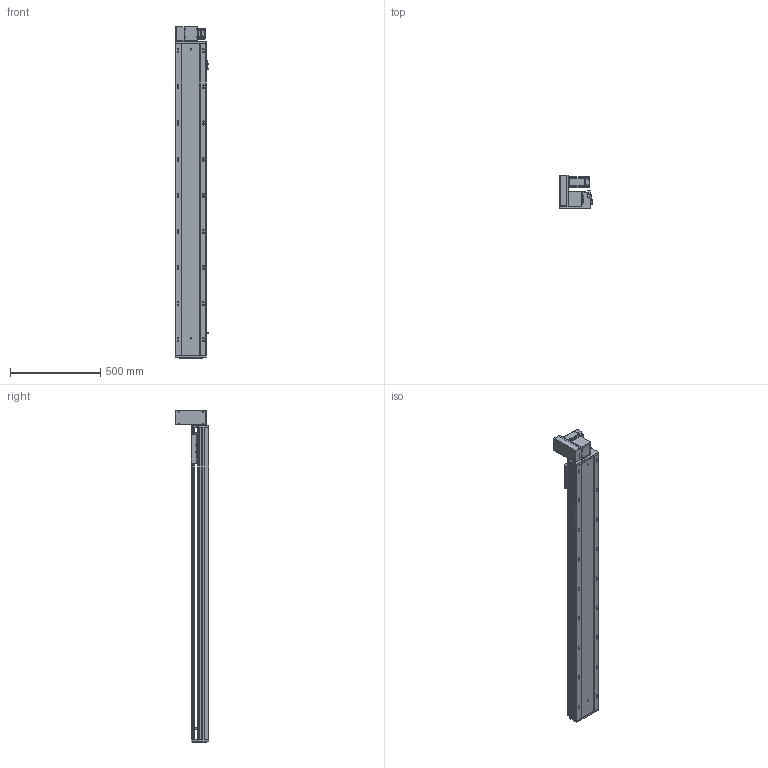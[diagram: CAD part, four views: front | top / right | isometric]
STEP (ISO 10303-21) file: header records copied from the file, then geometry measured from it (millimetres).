
FILE_DESCRIPTION (( 'STEP AP203' ), '1' );
FILE_NAME ('RY170-T-300-UL-P400W.SLDASM_1450.step', '2021-03-02T02:13:30', ( '盈信电脑' ), ( '东莞市道滘镇水果街19号' ), 'SwSTEP 2.0', 'SolidWorks 2012', '' );
FILE_SCHEMA (( 'CONFIG_CONTROL_DESIGN' ));
Products named in the file (18): RY170-T-300-UL-P400W.SLDASM_1450; 15; RY170-T蹟翐M4; 滅袉蝶18-10; RY170肮祭謫萇儂欶; RY120-T主同步轮轴承压盖; RY170同步轮电机安装板(400W); RY170翋肮祭謫釱; RY170-T肮祭湍揤踡輸2; RY170-T肮祭謫裔啣; RY170-T肮祭湍揤踡輸1; RY170肮祭謫ヶ裔啣; 覜茼ん672; RY170外置感应片(200共用）; RY170綴裔啣; RY170-T-300肮祭謫倰第菁釱-DL_1450; RY170-T-300肮祭謫倰第裔啣-DL_1450; RY170肮祭湍臏賑輸
Assembly tree (20 placements, depth 2):
  RY170-T-300-UL-P400W.SLDASM_1450
    RY170-T-300肮祭謫倰第菁釱-DL_1450
    RY170肮祭湍臏賑輸
    RY170-T-300肮祭謫倰第裔啣-DL_1450
    RY170綴裔啣
    覜茼ん672  x3
    RY170外置感应片(200共用）
    RY170肮祭謫ヶ裔啣
    RY170翋肮祭謫釱
    RY170-T肮祭湍揤踡輸1
    RY170-T肮祭湍揤踡輸2
    RY170-T肮祭謫裔啣
    滅袉蝶18-10  x2
    RY120-T主同步轮轴承压盖
    RY170肮祭謫萇儂欶
    RY170同步轮电机安装板(400W)
    RY170-T蹟翐M4
    15
Bounding box: 183.7 x 184 x 1838 mm (x, y, z)
Volume: 8757567.9 mm3; surface area: 2986308.8 mm2
Topology: 20 solids, 20 shells, 2677 faces, 7482 edges, 4773 vertices
Faces by surface type: cylinder 1230, plane 1149, cone 268, bspline 30
Entity records: 85568 total; most frequent: CARTESIAN_POINT 19300, ORIENTED_EDGE 13544, DIRECTION 13298, EDGE_CURVE 6772, AXIS2_PLACEMENT_3D 4693, VERTEX_POINT 4441, LINE 3912, VECTOR 3912
